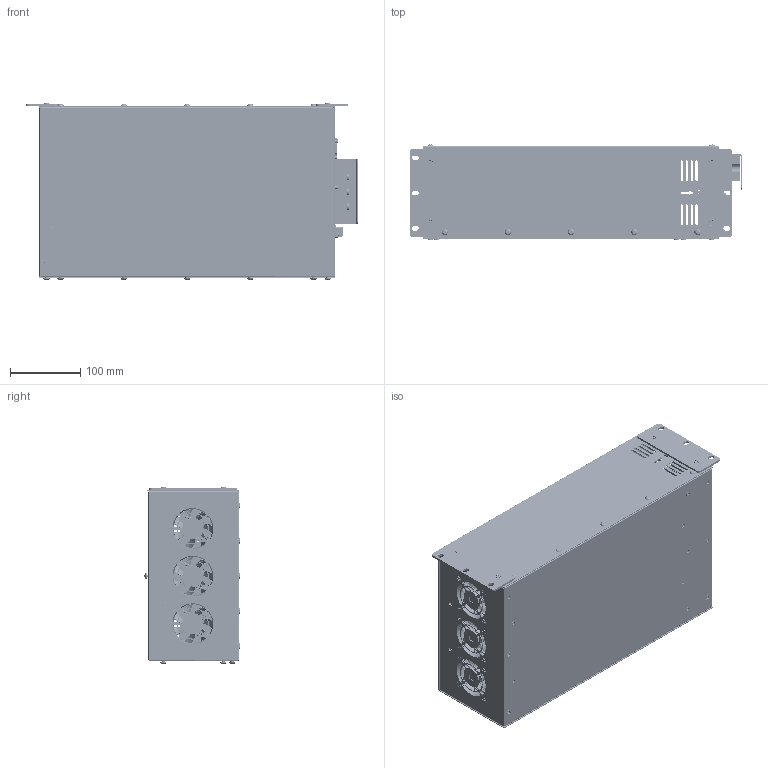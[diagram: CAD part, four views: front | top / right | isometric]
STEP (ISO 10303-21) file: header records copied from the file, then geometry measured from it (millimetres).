
FILE_DESCRIPTION(/* description */ (''),/* implementation_level */ '2;1');
FILE_NAME(/* name */ '',/* time_stamp */ '2026-06-17T15:11:54+09:00',/* author */ ('Administrator'),/* organization */ (''),/* preprocessor_version */ 'ST-DEVELOPER v20.1',/* originating_system */ 'Autodesk Inventor 2026',/* authorisation */ '');
FILE_SCHEMA (('AUTOMOTIVE_DESIGN { 1 0 10303 214 3 1 1 }'));
Products named in the file (38): VX3COM_OLED_21pitch단자대_2026.06.16; OLED FRAME 21단자대; TB 3P_21pitch; 단자대 3P; OLED BMU ASS'Y_2026.04.21; PCB; 772-E09-113; (DSUB)172-009-283; KSD03H; ROTARY SWITCH; KSD03H_R.TSET; KSD02H; GREEN LED; OLED_42.4X38; 702913000; Tact Switch_6X6; tact 1; tact2; RUBBER CAP_10mm; 지지대볼트_m4_H8; BMU LABEL엠보싱 없앤거; semsbolt_M3_6_silver; pxc_0710170_03_DFK-MSTB-2-5-2-GF-5-08_3D; Gewindebuchse; DFK-MSTB_2.5-GF-5.08_GEH; DFK-2.8-MSTB_2.5_METALL.1; semsbolt_M3_6; pxc_1777989; MSTB_2_5-2-5_08; FAN 60X60X20; 접시머리_M5_알류미늄 
짙음; 21PT 아크릴 배터리 단자 
커버; POP NUT M4; COVER; 트러스머리_M4_10; M5 리벳; Vertical용 브라켓(짧은거); 접시머리_m4_9
Assembly tree (103 placements, depth 4):
  VX3COM_OLED_21pitch단자대_2026.06.16
    OLED FRAME 21단자대
    TB 3P_21pitch
      단자대 3P
      트러스머리_M4_10  x2
    BMU LABEL엠보싱 없앤거
    semsbolt_M3_6_silver  x4
    pxc_0710170_03_DFK-MSTB-2-5-2-GF-5-08_3D
      Gewindebuchse  x2
      DFK-MSTB_2.5-GF-5.08_GEH
      DFK-2.8-MSTB_2.5_METALL.1  x2
      semsbolt_M3_6  x2
      pxc_1777989
        MSTB_2_5-2-5_08
    FAN 60X60X20  x3
    접시머리_M5_알류미늄 
짙음  x12
    POP NUT M4  x23
    21PT 아크릴 배터리 단자 
커버
    COVER
    트러스머리_M4_10  x6
    M5 리벳  x10
    Vertical용 브라켓(짧은거)  x2
    접시머리_m4_9  x4
  OLED BMU ASS'Y_2026.04.21
    PCB
    772-E09-113
    (DSUB)172-009-283
    KSD03H
    ROTARY SWITCH
    KSD03H_R.TSET
    KSD02H
    GREEN LED
    OLED_42.4X38
    702913000  x4
    Tact Switch_6X6
      tact 1
      tact2
      RUBBER CAP_10mm
    지지대볼트_m4_H8  x4
Bounding box: 471.02 x 134.93 x 251.17 mm (x, y, z)
Volume: 726578.7 mm3; surface area: 963333.8 mm2
Topology: 169 solids, 171 shells, 9444 faces, 24611 edges, 16085 vertices
Faces by surface type: plane 5511, cylinder 1989, bspline 1677, torus 154, cone 80, sphere 33
Full cylindrical faces by diameter (mm): 0.013 x9, 0.6 x5, 0.609 x1, 0.61 x27, 0.635 x9, 0.7 x24, 0.75 x21, 0.85 x3, 0.9 x24, 1 x6, 1.397 x9, 1.4 x2, 1.5 x4, 1.75 x2, 2.1 x4, 2.286 x9, 2.5 x8, 2.8 x12, 2.957 x12, 3 x6, 3.048 x4, 3.3 x4, 3.4 x6, 3.5 x1, 3.6 x25, 3.7 x4, 3.783 x2, 3.8 x14, 3.9 x2, 4 x17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
Entity records: 183516 total; most frequent: CARTESIAN_POINT 54078, ORIENTED_EDGE 27842, DIRECTION 22346, EDGE_CURVE 13921, LINE 9328, VECTOR 9328, VERTEX_POINT 9147, AXIS2_PLACEMENT_3D 6509
